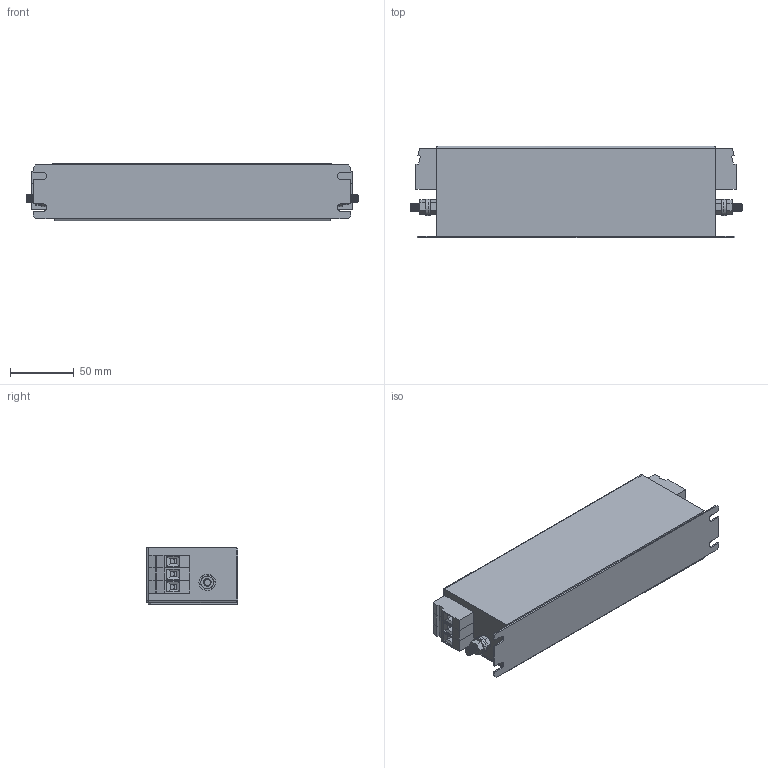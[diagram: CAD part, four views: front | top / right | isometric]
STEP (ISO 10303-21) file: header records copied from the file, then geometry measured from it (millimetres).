
FILE_DESCRIPTION (( 'STEP AP203' ), '1' );
FILE_NAME ('NF-K-16.STEP', '2013-07-15T16:26:07', ( 'Owner' ), ( 'EPA' ), 'SwSTEP 2.0', 'SolidWorks 2007', '' );
FILE_SCHEMA (( 'CONFIG_CONTROL_DESIGN' ));
Length unit declared in the file: millimetre
Products named in the file (8): VDFK-6; VDFK6x3; NF-K-16; NK-K-16; M6x16 Earth post; Hex Screw_AM_B18.6.7M - M6 x 1.0 x 16 Plain HHMS --16S; Flat Washer Narrow_AM_B18.22M - Plain washer, 6 mm, narrow; Hex Nut Style 1_AM_B18.2.4.1M - Hex nut, Style 1,  M6 x 1 --D-N
Assembly tree (12 placements, depth 3):
  NF-K-16
    VDFK6x3  x2
      VDFK-6
    M6x16 Earth post  x2
      Hex Screw_AM_B18.6.7M - M6 x 1.0 x 16 Plain HHMS --16S
      Flat Washer Narrow_AM_B18.22M - Plain washer, 6 mm, narrow
      Hex Nut Style 1_AM_B18.2.4.1M - Hex nut, Style 1,  M6 x 1 --D-N
    NK-K-16
Bounding box: 261.4 x 72 x 45 mm (x, y, z)
Volume: 703108 mm3; surface area: 99021.8 mm2
Topology: 15 solids, 15 shells, 687 faces, 1699 edges, 1066 vertices
Faces by surface type: plane 354, cone 168, cylinder 163, sphere 2
Entity records: 8810 total; most frequent: CARTESIAN_POINT 1524, DIRECTION 1406, ORIENTED_EDGE 1288, EDGE_CURVE 644, AXIS2_PLACEMENT_3D 532, VERTEX_POINT 402, VECTOR 342, LINE 342
